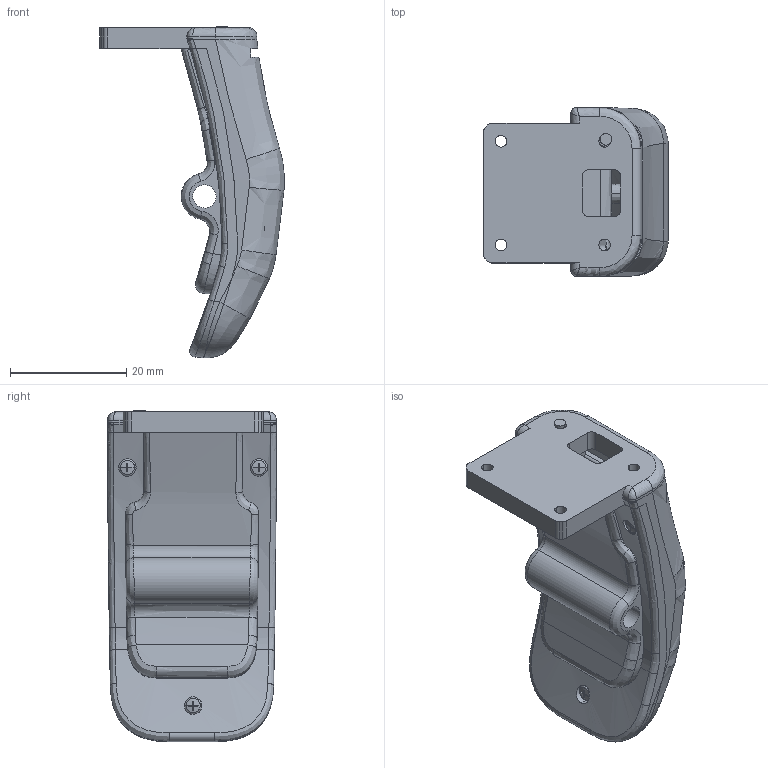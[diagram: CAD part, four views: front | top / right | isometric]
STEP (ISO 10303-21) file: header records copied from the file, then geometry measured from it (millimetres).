
FILE_DESCRIPTION(/* description */ (''),/* implementation_level */ '2;1');
FILE_NAME(/* name */ '[DRB-0002] Hand',/* time_stamp */ '2012-01-13T13:25:17+09:00',/* author */ (''),/* organization */ (''),/* preprocessor_version */ 'ST-DEVELOPER v10',/* originating_system */ '',/* authorisation */ '');
FILE_SCHEMA (('AUTOMOTIVE_DESIGN_CC2'));
Length unit declared in the file: millimetre
Products named in the file (1): 1
Bounding box: 31.73 x 29 x 56.97 mm (x, y, z)
Volume: 9231.1 mm3; surface area: 11957.1 mm2
Topology: 7 solids, 7 shells, 613 faces, 1519 edges, 958 vertices
Faces by surface type: bspline 446, plane 167
Entity records: 26496 total; most frequent: CARTESIAN_POINT 17287, ORIENTED_EDGE 3038, EDGE_CURVE 1519, B_SPLINE_CURVE_WITH_KNOTS 1094, VERTEX_POINT 958, EDGE_LOOP 669, ADVANCED_FACE 613, FACE_OUTER_BOUND 613
